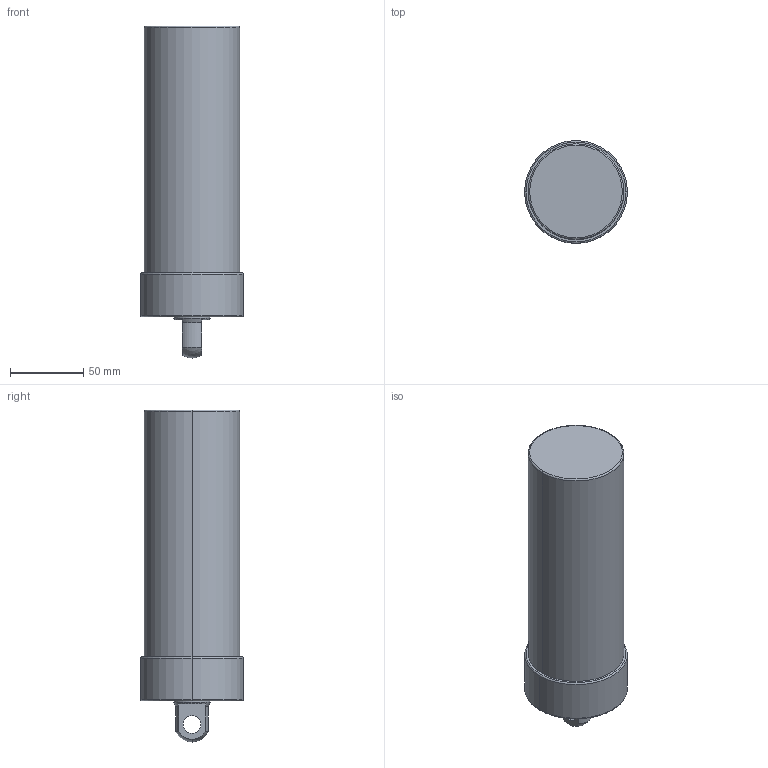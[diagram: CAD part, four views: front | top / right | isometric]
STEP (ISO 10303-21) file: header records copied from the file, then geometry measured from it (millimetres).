
FILE_DESCRIPTION (( 'STEP AP203' ), '1' );
FILE_NAME ('CLLU-065GP-135.STEP', '2020-01-08T00:37:57', ( '' ), ( '' ), 'SwSTEP 2.0', 'SolidWorks 2015', '' );
FILE_SCHEMA (( 'CONFIG_CONTROL_DESIGN' ));
Length unit declared in the file: millimetre
Products named in the file (1): CLLU-065GP-135
Bounding box: 70 x 70 x 226 mm (x, y, z)
Volume: 677014.4 mm3; surface area: 51262.1 mm2
Topology: 1 solids, 1 shells, 57 faces, 130 edges, 75 vertices
Faces by surface type: cylinder 22, cone 18, plane 9, torus 6, sphere 2
Entity records: 1643 total; most frequent: DIRECTION 308, CARTESIAN_POINT 267, ORIENTED_EDGE 244, AXIS2_PLACEMENT_3D 132, EDGE_CURVE 122, VERTEX_POINT 75, CIRCLE 74, EDGE_LOOP 67
